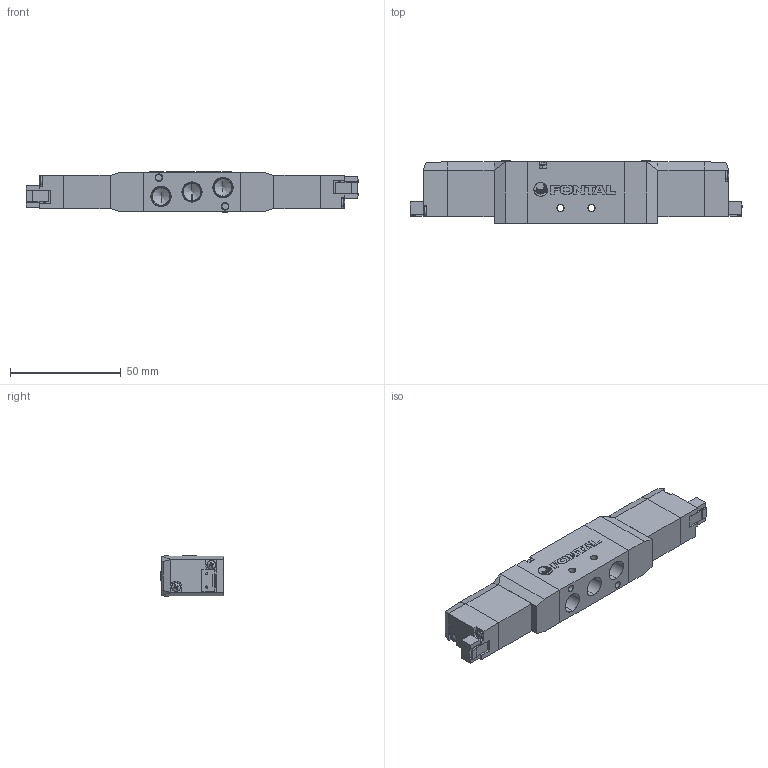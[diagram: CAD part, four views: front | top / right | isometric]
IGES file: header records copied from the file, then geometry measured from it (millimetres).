
Start section: SolidWorks IGES file using analytic representation for surfaces
Global section: file name: D:\Custom\3D繪製\PC\PC13\RCD2413-01-#-SP-#.IGS,1; native system: 5HSolidWorks 2014; preprocessor: SolidWorks 2014; author: Chieh_Lu; date: 150915.184238; units: millimetre
Bounding box: 150 x 28.5 x 18.6 mm (x, y, z)
Surface area: 23195.1 mm2 (no closed solid volume)
Topology: 0 solids, 0 shells, 618 faces, 5486 edges, 5464 vertices
Faces by surface type: bspline 422, revolution 196
